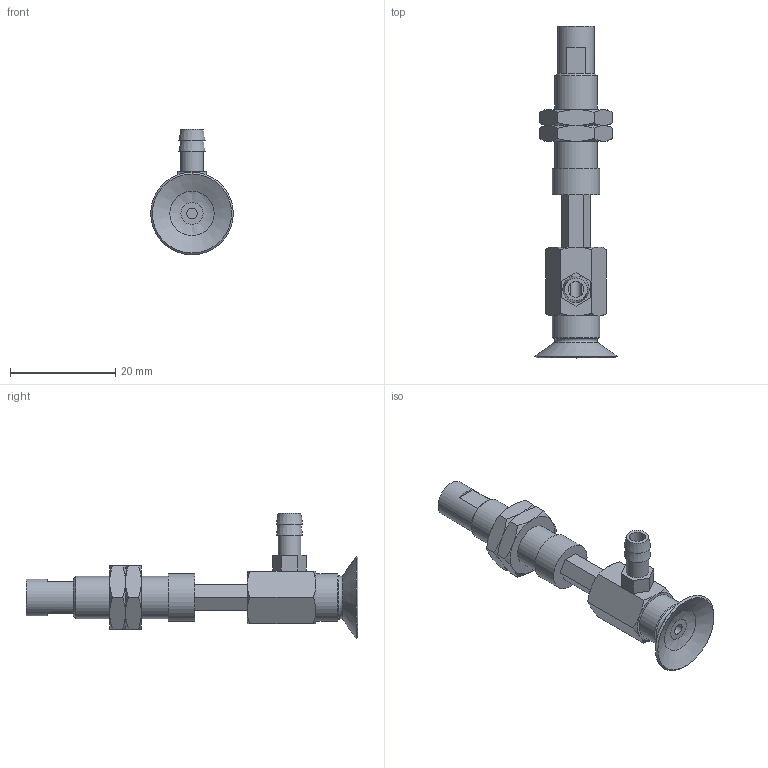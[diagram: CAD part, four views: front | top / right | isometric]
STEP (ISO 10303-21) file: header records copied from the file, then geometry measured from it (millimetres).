
FILE_DESCRIPTION(('STEP AP203'),'1');
FILE_NAME('-T.stp','2025-04-10T07:33:12',(' '),(' '),'Spatial InterOp 3D',' ',' ');
FILE_SCHEMA(('CONFIG_CONTROL_DESIGN'));
Length unit declared in the file: millimetre
Products named in the file (7): BNABPFYH-15A-10-※-T; CONNECTOR-H-15A-10; Nut-15A-10-h; NAPFTH-15A-10-FBODY; NAPFTH-15A-10-MBODY; BPFG-15A-※; T
Assembly tree (7 placements, depth 2):
  BNABPFYH-15A-10-※-T
    CONNECTOR-H-15A-10
    Nut-15A-10-h  x2
    NAPFTH-15A-10-FBODY
    NAPFTH-15A-10-MBODY
    BPFG-15A-※
    T
Bounding box: 15.7 x 63 x 23.85 mm (x, y, z)
Volume: 3789.9 mm3; surface area: 4860 mm2
Topology: 7 solids, 7 shells, 157 faces, 335 edges, 205 vertices
Faces by surface type: plane 75, cone 54, cylinder 18, torus 9, bspline 1
Full cylindrical faces by diameter (mm): 2 x2, 3 x1, 4 x2, 4.134 x2, 4.3 x1, 5 x2, 6 x2, 7 x1, 7.188 x2, 8 x1, 9 x2
Entity records: 3949 total; most frequent: CARTESIAN_POINT 925, DIRECTION 556, ORIENTED_EDGE 476, EDGE_CURVE 238, AXIS2_PLACEMENT_3D 231, EDGE_LOOP 200, VERTEX_POINT 170, FACE_OUTER_BOUND 161
